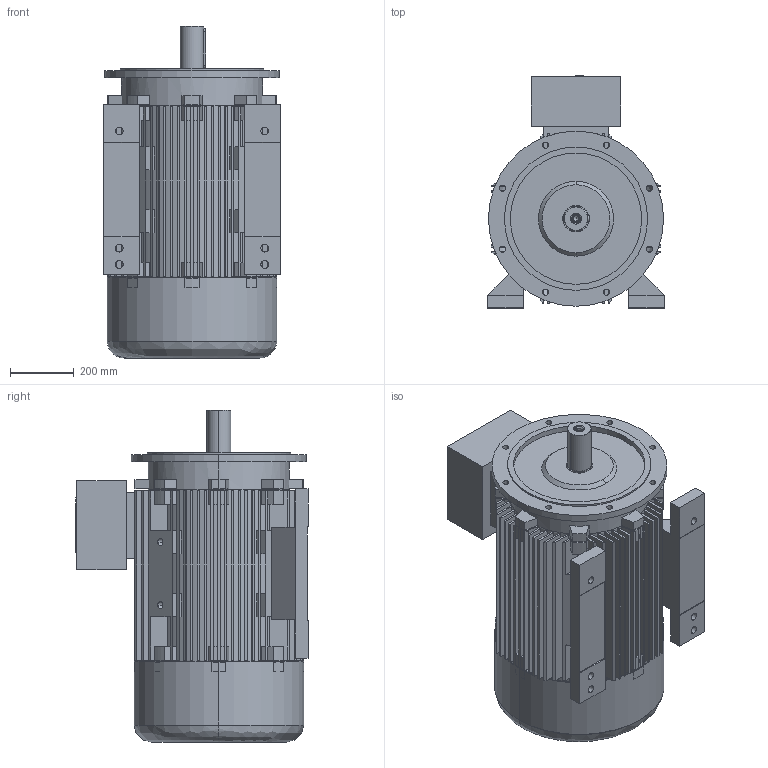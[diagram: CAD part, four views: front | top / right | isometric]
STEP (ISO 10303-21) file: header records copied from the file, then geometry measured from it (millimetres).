
FILE_DESCRIPTION (( 'STEP AP203' ), '1' );
FILE_NAME ('20.18430_C 7AT 280S&M -4, -6, -8 B35 Exd STANDK.STEP', '2018-05-22T12:19:56', ( '' ), ( '' ), 'SwSTEP 2.0', 'SolidWorks 2017', '' );
FILE_SCHEMA (( 'CONFIG_CONTROL_DESIGN' ));
Length unit declared in the file: millimetre
Products named in the file (1): 20.18430_C 7AT 280S&M -4, -6, -8 B35 Exd STANDK
Bounding box: 555 x 729 x 1043 mm (x, y, z)
Volume: 72305344.7 mm3; surface area: 8580984.7 mm2
Topology: 8 solids, 8 shells, 952 faces, 2591 edges, 1709 vertices
Faces by surface type: plane 735, cylinder 170, cone 34, bspline 13
Entity records: 30719 total; most frequent: CARTESIAN_POINT 6112, ORIENTED_EDGE 5146, DIRECTION 5053, EDGE_CURVE 2573, LINE 1889, VECTOR 1889, VERTEX_POINT 1709, AXIS2_PLACEMENT_3D 1582
